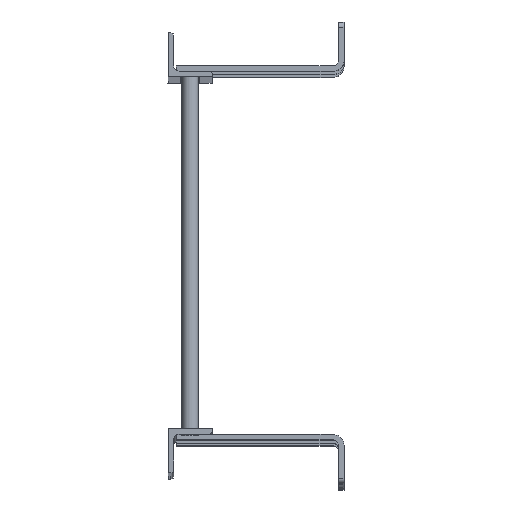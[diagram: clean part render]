
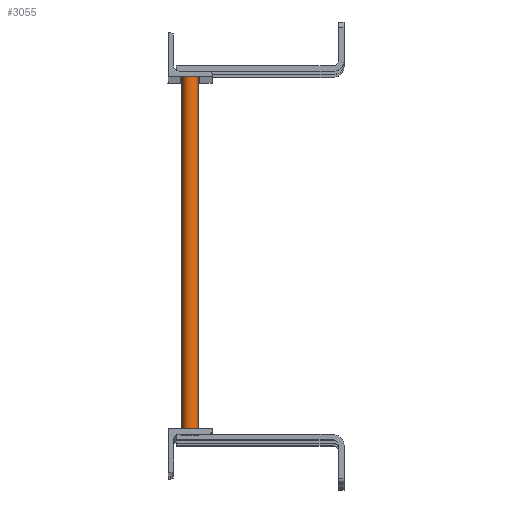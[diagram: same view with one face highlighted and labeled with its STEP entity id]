
A CAD part, top view. The second image highlights one B-rep face of the part: STEP entity #3055.
In plain terms, the highlighted cylindrical face has radius 9.525 mm (diameter 19.05 mm), a full revolution.
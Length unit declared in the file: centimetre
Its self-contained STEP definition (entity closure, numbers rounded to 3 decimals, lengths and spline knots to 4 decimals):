
#547=FACE_BOUND('',#854,.T.);
#670=FACE_OUTER_BOUND('',#853,.T.);
#853=EDGE_LOOP('',(#2005));
#854=EDGE_LOOP('',(#2006));
#1159=CIRCLE('',#3257,0.9525);
#1160=CIRCLE('',#3258,0.9525);
#1335=VERTEX_POINT('',#4545);
#1336=VERTEX_POINT('',#4547);
#1621=EDGE_CURVE('',#1335,#1335,#1159,.T.);
#1622=EDGE_CURVE('',#1336,#1336,#1160,.T.);
#2005=ORIENTED_EDGE('',*,*,#1621,.T.);
#2006=ORIENTED_EDGE('',*,*,#1622,.F.);
#2773=CYLINDRICAL_SURFACE('',#3256,0.9525);
#3055=ADVANCED_FACE('',(#670,#547),#2773,.T.);
#3256=AXIS2_PLACEMENT_3D('',#4544,#3617,#3618);
#3257=AXIS2_PLACEMENT_3D('',#4546,#3619,#3620);
#3258=AXIS2_PLACEMENT_3D('',#4548,#3621,#3622);
#3617=DIRECTION('center_axis',(0.,-1.,0.));
#3618=DIRECTION('ref_axis',(1.,0.,0.));
#3619=DIRECTION('center_axis',(0.,1.,0.));
#3620=DIRECTION('ref_axis',(1.,0.,0.));
#3621=DIRECTION('center_axis',(0.,1.,0.));
#3622=DIRECTION('ref_axis',(1.,0.,0.));
#4544=CARTESIAN_POINT('Origin',(2.54,0.4762,430.53));
#4545=CARTESIAN_POINT('',(1.5875,-41.4338,430.53));
#4546=CARTESIAN_POINT('Origin',(2.54,-41.4338,430.53));
#4547=CARTESIAN_POINT('',(1.5875,0.4762,430.53));
#4548=CARTESIAN_POINT('Origin',(2.54,0.4762,430.53));
